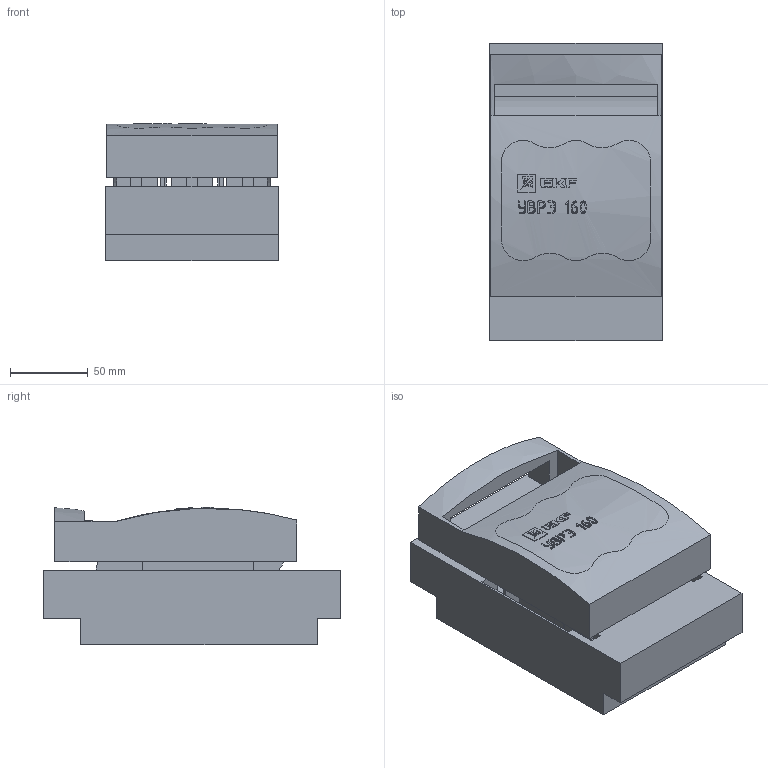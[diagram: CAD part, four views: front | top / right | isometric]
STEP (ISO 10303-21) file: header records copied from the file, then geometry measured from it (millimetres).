
FILE_DESCRIPTION (( 'STEP AP214' ), '1' );
FILE_NAME ('ÓÂÐÝ 160À îòêèäíîãî òèïà ïîä ïðåäîõðàíèòåëè ÏÏÍ (uvre-160).STEP', '2021-01-15T07:25:01', ( '' ), ( '' ), 'SwSTEP 2.0', 'SolidWorks 2021', '' );
FILE_SCHEMA (( 'AUTOMOTIVE_DESIGN' ));
Length unit declared in the file: millimetre
Products named in the file (3): Êîðïóñ 160À; Êðûøêà 160À; ÓÂÐÝ 160À îòêèäíîãî òèïà ïîä ïðåäîõðàíèòåëè ÏÏÍ (uvre-160)
Assembly tree (2 placements, depth 2):
  ÓÂÐÝ 160À îòêèäíîãî òèïà ïîä ïðåäîõðàíèòåëè ÏÏÍ (uvre-160)
    Êîðïóñ 160À
    Êðûøêà 160À
Bounding box: 111 x 191.5 x 88.38 mm (x, y, z)
Volume: 525633.3 mm3; surface area: 270717.6 mm2
Topology: 2 solids, 2 shells, 643 faces, 1853 edges, 1238 vertices
Faces by surface type: plane 391, bspline 188, cylinder 64
Entity records: 40999 total; most frequent: CARTESIAN_POINT 25444, ORIENTED_EDGE 3706, DIRECTION 2265, EDGE_CURVE 1853, VERTEX_POINT 1238, LINE 1089, VECTOR 1089, EDGE_LOOP 705
